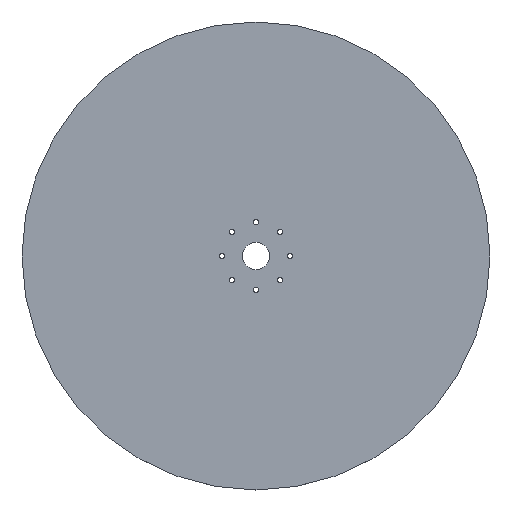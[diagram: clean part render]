
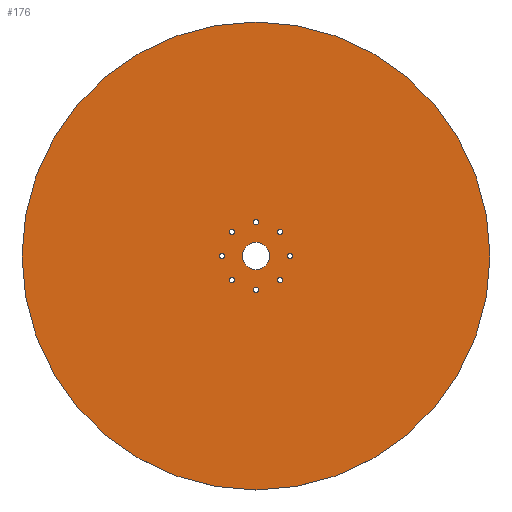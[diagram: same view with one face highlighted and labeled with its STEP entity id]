
A CAD part, top view. The second image highlights one B-rep face of the part: STEP entity #176.
In plain terms, the highlighted planar face has unit normal (0, 0, 1).
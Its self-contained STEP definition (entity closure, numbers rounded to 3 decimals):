
#42 = VERTEX_POINT('',#43);
#43 = CARTESIAN_POINT('',(44.75,0.,1.51));
#49 = EDGE_CURVE('',#42,#42,#50,.T.);
#50 = CIRCLE('',#51,44.75);
#51 = AXIS2_PLACEMENT_3D('',#52,#53,#54);
#52 = CARTESIAN_POINT('',(0.,0.,1.51));
#53 = DIRECTION('',(0.,0.,1.));
#54 = DIRECTION('',(1.,0.,-0.));
#176 = ADVANCED_FACE('',(#177,#180,#191,#202,#213,#224,#235,#246,#257,
    #268),#279,.T.);
#177 = FACE_BOUND('',#178,.T.);
#178 = EDGE_LOOP('',(#179));
#179 = ORIENTED_EDGE('',*,*,#49,.T.);
#180 = FACE_BOUND('',#181,.T.);
#181 = EDGE_LOOP('',(#182));
#182 = ORIENTED_EDGE('',*,*,#183,.T.);
#183 = EDGE_CURVE('',#184,#184,#186,.T.);
#184 = VERTEX_POINT('',#185);
#185 = CARTESIAN_POINT('',(-4.6,-5.1,1.51));
#186 = CIRCLE('',#187,0.5);
#187 = AXIS2_PLACEMENT_3D('',#188,#189,#190);
#188 = CARTESIAN_POINT('',(-4.6,-4.6,1.51));
#189 = DIRECTION('',(-0.,0.,-1.));
#190 = DIRECTION('',(-0.,-1.,0.));
#191 = FACE_BOUND('',#192,.T.);
#192 = EDGE_LOOP('',(#193));
#193 = ORIENTED_EDGE('',*,*,#194,.T.);
#194 = EDGE_CURVE('',#195,#195,#197,.T.);
#195 = VERTEX_POINT('',#196);
#196 = CARTESIAN_POINT('',(0.,-7.,1.51));
#197 = CIRCLE('',#198,0.5);
#198 = AXIS2_PLACEMENT_3D('',#199,#200,#201);
#199 = CARTESIAN_POINT('',(0.,-6.5,1.51));
#200 = DIRECTION('',(-0.,0.,-1.));
#201 = DIRECTION('',(0.,-1.,-0.));
#202 = FACE_BOUND('',#203,.T.);
#203 = EDGE_LOOP('',(#204));
#204 = ORIENTED_EDGE('',*,*,#205,.T.);
#205 = EDGE_CURVE('',#206,#206,#208,.T.);
#206 = VERTEX_POINT('',#207);
#207 = CARTESIAN_POINT('',(4.6,-5.1,1.51));
#208 = CIRCLE('',#209,0.5);
#209 = AXIS2_PLACEMENT_3D('',#210,#211,#212);
#210 = CARTESIAN_POINT('',(4.6,-4.6,1.51));
#211 = DIRECTION('',(-0.,0.,-1.));
#212 = DIRECTION('',(-0.,-1.,0.));
#213 = FACE_BOUND('',#214,.T.);
#214 = EDGE_LOOP('',(#215));
#215 = ORIENTED_EDGE('',*,*,#216,.T.);
#216 = EDGE_CURVE('',#217,#217,#219,.T.);
#217 = VERTEX_POINT('',#218);
#218 = CARTESIAN_POINT('',(-6.5,-0.5,1.51));
#219 = CIRCLE('',#220,0.5);
#220 = AXIS2_PLACEMENT_3D('',#221,#222,#223);
#221 = CARTESIAN_POINT('',(-6.5,0.,1.51));
#222 = DIRECTION('',(-0.,0.,-1.));
#223 = DIRECTION('',(-0.,-1.,0.));
#224 = FACE_BOUND('',#225,.T.);
#225 = EDGE_LOOP('',(#226));
#226 = ORIENTED_EDGE('',*,*,#227,.T.);
#227 = EDGE_CURVE('',#228,#228,#230,.T.);
#228 = VERTEX_POINT('',#229);
#229 = CARTESIAN_POINT('',(-4.6,4.1,1.51));
#230 = CIRCLE('',#231,0.5);
#231 = AXIS2_PLACEMENT_3D('',#232,#233,#234);
#232 = CARTESIAN_POINT('',(-4.6,4.6,1.51));
#233 = DIRECTION('',(-0.,0.,-1.));
#234 = DIRECTION('',(-0.,-1.,0.));
#235 = FACE_BOUND('',#236,.T.);
#236 = EDGE_LOOP('',(#237));
#237 = ORIENTED_EDGE('',*,*,#238,.T.);
#238 = EDGE_CURVE('',#239,#239,#241,.T.);
#239 = VERTEX_POINT('',#240);
#240 = CARTESIAN_POINT('',(0.,-2.6,1.51));
#241 = CIRCLE('',#242,2.6);
#242 = AXIS2_PLACEMENT_3D('',#243,#244,#245);
#243 = CARTESIAN_POINT('',(0.,0.,1.51));
#244 = DIRECTION('',(-0.,0.,-1.));
#245 = DIRECTION('',(0.,-1.,-0.));
#246 = FACE_BOUND('',#247,.T.);
#247 = EDGE_LOOP('',(#248));
#248 = ORIENTED_EDGE('',*,*,#249,.T.);
#249 = EDGE_CURVE('',#250,#250,#252,.T.);
#250 = VERTEX_POINT('',#251);
#251 = CARTESIAN_POINT('',(6.5,-0.5,1.51));
#252 = CIRCLE('',#253,0.5);
#253 = AXIS2_PLACEMENT_3D('',#254,#255,#256);
#254 = CARTESIAN_POINT('',(6.5,0.,1.51));
#255 = DIRECTION('',(-0.,0.,-1.));
#256 = DIRECTION('',(-0.,-1.,0.));
#257 = FACE_BOUND('',#258,.T.);
#258 = EDGE_LOOP('',(#259));
#259 = ORIENTED_EDGE('',*,*,#260,.T.);
#260 = EDGE_CURVE('',#261,#261,#263,.T.);
#261 = VERTEX_POINT('',#262);
#262 = CARTESIAN_POINT('',(0.,6.,1.51));
#263 = CIRCLE('',#264,0.5);
#264 = AXIS2_PLACEMENT_3D('',#265,#266,#267);
#265 = CARTESIAN_POINT('',(0.,6.5,1.51));
#266 = DIRECTION('',(-0.,0.,-1.));
#267 = DIRECTION('',(0.,-1.,-0.));
#268 = FACE_BOUND('',#269,.T.);
#269 = EDGE_LOOP('',(#270));
#270 = ORIENTED_EDGE('',*,*,#271,.T.);
#271 = EDGE_CURVE('',#272,#272,#274,.T.);
#272 = VERTEX_POINT('',#273);
#273 = CARTESIAN_POINT('',(4.6,4.1,1.51));
#274 = CIRCLE('',#275,0.5);
#275 = AXIS2_PLACEMENT_3D('',#276,#277,#278);
#276 = CARTESIAN_POINT('',(4.6,4.6,1.51));
#277 = DIRECTION('',(-0.,0.,-1.));
#278 = DIRECTION('',(-0.,-1.,0.));
#279 = PLANE('',#280);
#280 = AXIS2_PLACEMENT_3D('',#281,#282,#283);
#281 = CARTESIAN_POINT('',(0.,0.,1.51));
#282 = DIRECTION('',(0.,0.,1.));
#283 = DIRECTION('',(1.,0.,-0.));
